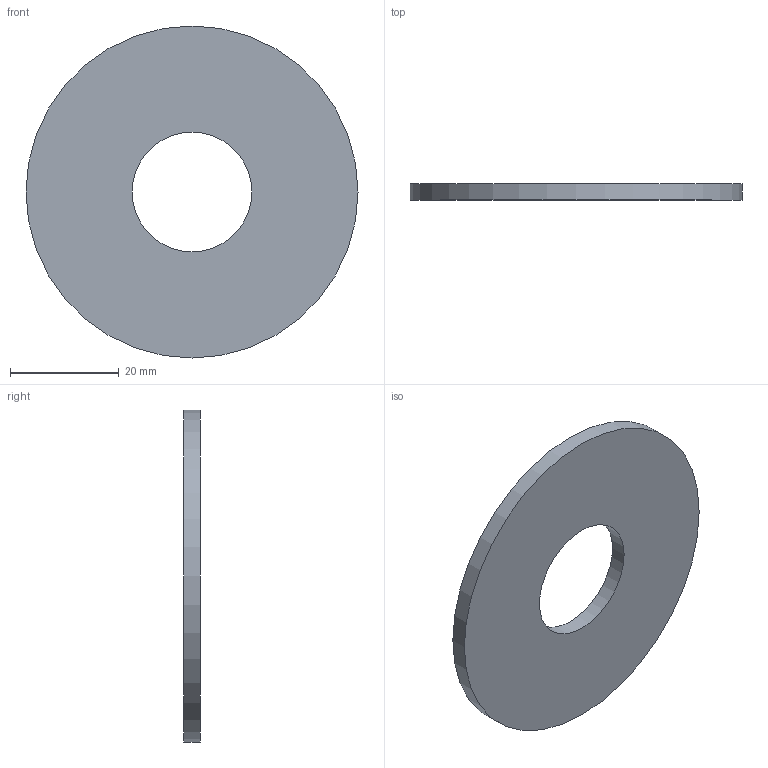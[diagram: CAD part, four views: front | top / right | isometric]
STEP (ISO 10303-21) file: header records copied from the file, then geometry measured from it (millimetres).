
FILE_DESCRIPTION(/* description */ ('Unknown'),/* implementation_level */ '2;1');
FILE_NAME(/* name */ 'GUA.025C',/* time_stamp */ '2021-10-26T12:04:43+02:00',/* author */ ('Unknown'),/* organization */ ('Unknown'),/* preprocessor_version */ 'ST-DEVELOPER v16.7',/* originating_system */ 'Solid Edge',/* authorisation */ 'Unknown');
FILE_SCHEMA (('AUTOMOTIVE_DESIGN {1 0 10303 214 3 1 1}'));
Length unit declared in the file: millimetre
Products named in the file (1): GUA.025C
Bounding box: 61 x 3 x 61 mm (x, y, z)
Volume: 7627 mm3; surface area: 5866.9 mm2
Topology: 1 solids, 1 shells, 4 faces, 6 edges, 4 vertices
Faces by surface type: cylinder 2, plane 2
Full cylindrical faces by diameter (mm): 22 x1, 61 x1
Entity records: 118 total; most frequent: DIRECTION 18, CARTESIAN_POINT 13, AXIS2_PLACEMENT_3D 9, ORIENTED_EDGE 8, EDGE_LOOP 8, FACE_BOUND 8, EDGE_CURVE 4, VERTEX_POINT 4
